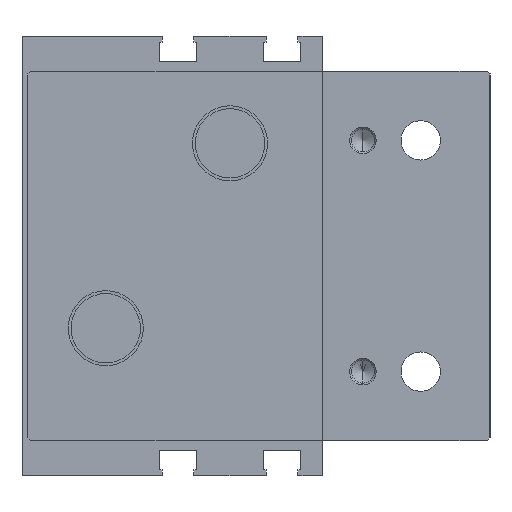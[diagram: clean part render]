
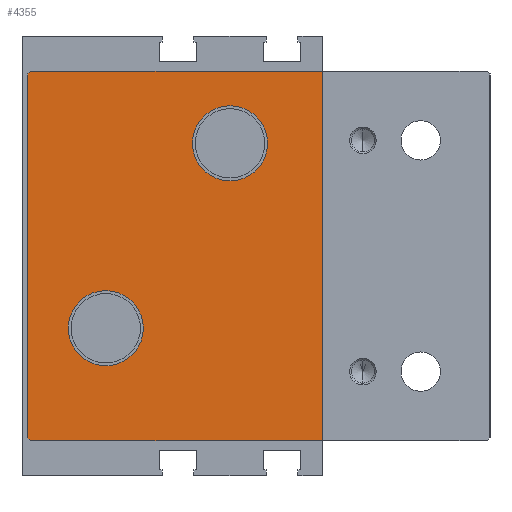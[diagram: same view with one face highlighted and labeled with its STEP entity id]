
A CAD part, left-side view. The second image highlights one B-rep face of the part: STEP entity #4355.
In plain terms, the highlighted planar face has unit normal (-1, 0, 0) as drawn and (1, 0, 0) by its records, which use the part's own axes.
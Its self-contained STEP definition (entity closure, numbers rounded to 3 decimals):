
#22 = CARTESIAN_POINT ( 'NONE',  ( 21., -1.5, -32. ) ) ;
#144 = CARTESIAN_POINT ( 'NONE',  ( 21., -1., -31.5 ) ) ;
#241 = VERTEX_POINT ( 'NONE', #9639 ) ;
#2327 = DIRECTION ( 'NONE',  ( 0., 0., -1. ) ) ;
#3222 = LINE ( 'NONE', #9270, #4354 ) ;
#3617 = ORIENTED_EDGE ( 'NONE', *, *, #40242, .T. ) ;
#3698 = VERTEX_POINT ( 'NONE', #22212 ) ;
#4220 = EDGE_LOOP ( 'NONE', ( #3617, #35005 ) ) ;
#4354 = VECTOR ( 'NONE', #38256, 1000. ) ;
#4355 = ADVANCED_FACE ( 'NONE', ( #17044, #26717, #36353 ), #12249, .T. ) ;
#4650 = DIRECTION ( 'NONE',  ( -1., 0., 0. ) ) ;
#4822 = CARTESIAN_POINT ( 'NONE',  ( 21., -1.5, 32. ) ) ;
#5113 = DIRECTION ( 'NONE',  ( 0., 0., -1. ) ) ;
#5763 = LINE ( 'NONE', #4822, #44317 ) ;
#6221 = VERTEX_POINT ( 'NONE', #20133 ) ;
#6315 = CARTESIAN_POINT ( 'NONE',  ( 21., -36., -19.5 ) ) ;
#6740 = ORIENTED_EDGE ( 'NONE', *, *, #36567, .T. ) ;
#6756 = VERTEX_POINT ( 'NONE', #28302 ) ;
#9011 = LINE ( 'NONE', #38629, #46426 ) ;
#9056 = VERTEX_POINT ( 'NONE', #34907 ) ;
#9270 = CARTESIAN_POINT ( 'NONE',  ( 21., -1., -31.5 ) ) ;
#9541 = ORIENTED_EDGE ( 'NONE', *, *, #30897, .T. ) ;
#9639 = CARTESIAN_POINT ( 'NONE',  ( 21., -1.5, -32. ) ) ;
#9994 = DIRECTION ( 'NONE',  ( 0., 0., -1. ) ) ;
#10203 = ORIENTED_EDGE ( 'NONE', *, *, #33325, .T. ) ;
#10496 = DIRECTION ( 'NONE',  ( -1., 0., 0. ) ) ;
#11196 = EDGE_CURVE ( 'NONE', #241, #26516, #25903, .T. ) ;
#11664 = VERTEX_POINT ( 'NONE', #14580 ) ;
#12249 = PLANE ( 'NONE',  #19671 ) ;
#12501 = CIRCLE ( 'NONE', #23609, 6.5 ) ;
#13158 = CARTESIAN_POINT ( 'NONE',  ( 21., -36., -19.5 ) ) ;
#14580 = CARTESIAN_POINT ( 'NONE',  ( 21., -1.5, 32. ) ) ;
#16556 = VERTEX_POINT ( 'NONE', #35794 ) ;
#16778 = DIRECTION ( 'NONE',  ( 0., 0., -1. ) ) ;
#17044 = FACE_OUTER_BOUND ( 'NONE', #21263, .T. ) ;
#17116 = AXIS2_PLACEMENT_3D ( 'NONE', #32166, #10496, #35836 ) ;
#18053 = ORIENTED_EDGE ( 'NONE', *, *, #25054, .T. ) ;
#19671 = AXIS2_PLACEMENT_3D ( 'NONE', #44880, #26811, #5113 ) ;
#20133 = CARTESIAN_POINT ( 'NONE',  ( 21., -14.5, 19. ) ) ;
#20417 = EDGE_CURVE ( 'NONE', #6756, #6221, #12501, .T. ) ;
#21263 = EDGE_LOOP ( 'NONE', ( #10203, #6740, #35725, #26616, #46461, #18053 ) ) ;
#21786 = CIRCLE ( 'NONE', #17116, 6.5 ) ;
#22212 = CARTESIAN_POINT ( 'NONE',  ( 21., -36., -13. ) ) ;
#22556 = EDGE_CURVE ( 'NONE', #16556, #30262, #9011, .T. ) ;
#23072 = AXIS2_PLACEMENT_3D ( 'NONE', #13158, #38514, #16778 ) ;
#23609 = AXIS2_PLACEMENT_3D ( 'NONE', #26357, #4650, #29987 ) ;
#23793 = CARTESIAN_POINT ( 'NONE',  ( 21., -1., 31.5 ) ) ;
#24772 = VECTOR ( 'NONE', #32218, 1000. ) ;
#25054 = EDGE_CURVE ( 'NONE', #26516, #36435, #3222, .T. ) ;
#25903 = LINE ( 'NONE', #28605, #24772 ) ;
#26303 = LINE ( 'NONE', #23793, #45605 ) ;
#26357 = CARTESIAN_POINT ( 'NONE',  ( 21., -14.5, 12.5 ) ) ;
#26514 = DIRECTION ( 'NONE',  ( 0., -1., 0. ) ) ;
#26516 = VERTEX_POINT ( 'NONE', #144 ) ;
#26616 = ORIENTED_EDGE ( 'NONE', *, *, #39971, .T. ) ;
#26624 = CIRCLE ( 'NONE', #41858, 6.5 ) ;
#26717 = FACE_BOUND ( 'NONE', #39799, .T. ) ;
#26811 = DIRECTION ( 'NONE',  ( 1., 0., 0. ) ) ;
#27456 = DIRECTION ( 'NONE',  ( 0., -0.707, 0.707 ) ) ;
#28302 = CARTESIAN_POINT ( 'NONE',  ( 21., -14.5, 6. ) ) ;
#28605 = CARTESIAN_POINT ( 'NONE',  ( 21., -1.5, -32. ) ) ;
#29987 = DIRECTION ( 'NONE',  ( 0., 0., -1. ) ) ;
#30262 = VERTEX_POINT ( 'NONE', #44128 ) ;
#30897 = EDGE_CURVE ( 'NONE', #6221, #6756, #21786, .T. ) ;
#31117 = VECTOR ( 'NONE', #36332, 1000. ) ;
#31636 = DIRECTION ( 'NONE',  ( -1., 0., 0. ) ) ;
#32166 = CARTESIAN_POINT ( 'NONE',  ( 21., -14.5, 12.5 ) ) ;
#32218 = DIRECTION ( 'NONE',  ( 0., 0.707, 0.707 ) ) ;
#33325 = EDGE_CURVE ( 'NONE', #36435, #11664, #26303, .T. ) ;
#34907 = CARTESIAN_POINT ( 'NONE',  ( 21., -36., -26. ) ) ;
#35005 = ORIENTED_EDGE ( 'NONE', *, *, #39164, .T. ) ;
#35725 = ORIENTED_EDGE ( 'NONE', *, *, #22556, .T. ) ;
#35794 = CARTESIAN_POINT ( 'NONE',  ( 21., -52., 32. ) ) ;
#35836 = DIRECTION ( 'NONE',  ( 0., 0., -1. ) ) ;
#36332 = DIRECTION ( 'NONE',  ( 0., 1., 0. ) ) ;
#36353 = FACE_BOUND ( 'NONE', #4220, .T. ) ;
#36435 = VERTEX_POINT ( 'NONE', #42669 ) ;
#36567 = EDGE_CURVE ( 'NONE', #11664, #16556, #5763, .T. ) ;
#37348 = CIRCLE ( 'NONE', #23072, 6.5 ) ;
#37899 = ORIENTED_EDGE ( 'NONE', *, *, #20417, .T. ) ;
#38256 = DIRECTION ( 'NONE',  ( 0., 0., 1. ) ) ;
#38514 = DIRECTION ( 'NONE',  ( -1., 0., 0. ) ) ;
#38629 = CARTESIAN_POINT ( 'NONE',  ( 21., -52., -71.5 ) ) ;
#39164 = EDGE_CURVE ( 'NONE', #3698, #9056, #26624, .T. ) ;
#39799 = EDGE_LOOP ( 'NONE', ( #37899, #9541 ) ) ;
#39971 = EDGE_CURVE ( 'NONE', #30262, #241, #40768, .T. ) ;
#40242 = EDGE_CURVE ( 'NONE', #9056, #3698, #37348, .T. ) ;
#40768 = LINE ( 'NONE', #22, #31117 ) ;
#41858 = AXIS2_PLACEMENT_3D ( 'NONE', #6315, #31636, #9994 ) ;
#42669 = CARTESIAN_POINT ( 'NONE',  ( 21., -1., 31.5 ) ) ;
#44128 = CARTESIAN_POINT ( 'NONE',  ( 21., -52., -32. ) ) ;
#44317 = VECTOR ( 'NONE', #26514, 1000. ) ;
#44880 = CARTESIAN_POINT ( 'NONE',  ( 21., -41., -71.5 ) ) ;
#45605 = VECTOR ( 'NONE', #27456, 1000. ) ;
#46426 = VECTOR ( 'NONE', #2327, 1000. ) ;
#46461 = ORIENTED_EDGE ( 'NONE', *, *, #11196, .T. ) ;
